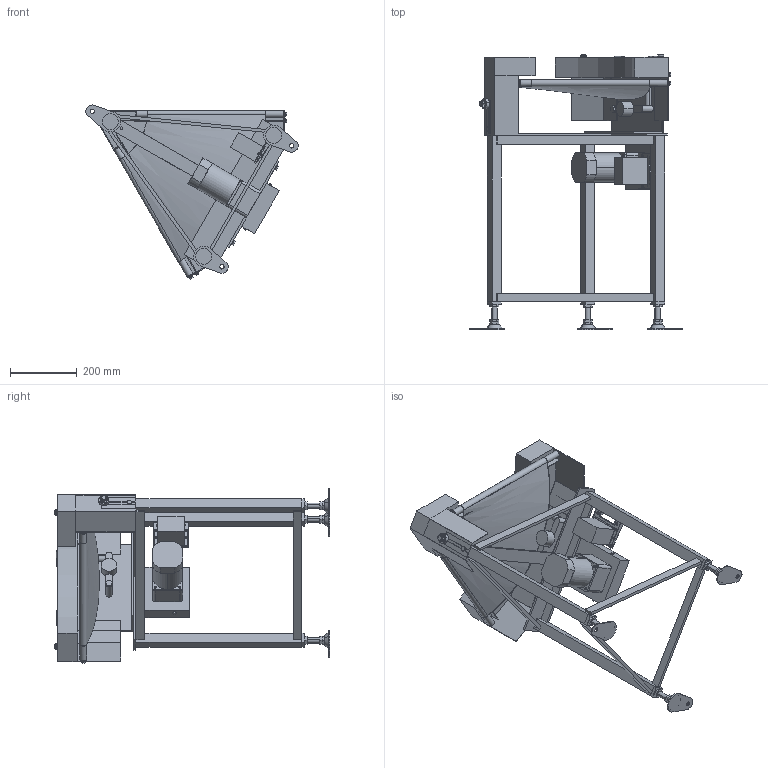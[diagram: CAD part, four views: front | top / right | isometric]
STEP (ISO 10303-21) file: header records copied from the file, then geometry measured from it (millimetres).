
FILE_DESCRIPTION( (''), '2;1');
FILE_NAME ('MMBC3-UD-309-300-60°-L-K-120.stp','2025-02-17T13:49:35',(''),(''),'spGate 20.6.2 (****-****-****-****)','','');
FILE_SCHEMA (('AUTOMOTIVE_DESIGN'));
Length unit declared in the file: millimetre
Products named in the file (39): NewModel; TEMP_X_T-prt0; TEMP_X_T-prt1; TEMP_X_T-prt2; TEMP_X_T-prt3; TEMP_X_T-prt4; TEMP_X_T-prt5; TEMP_X_T-prt6; TEMP_X_T-prt7; TEMP_X_T-prt8; TEMP_X_T-prt9; TEMP_X_T-prt10; TEMP_X_T-prt11; TEMP_X_T-prt12; TEMP_X_T-prt13; TEMP_X_T-prt14; TEMP_X_T-prt15; TEMP_X_T-prt16; TEMP_X_T-prt17; TEMP_X_T-prt18; TEMP_X_T-prt19; TEMP_X_T-prt20; TEMP_X_T-prt21; TEMP_X_T-prt22; TEMP_X_T-prt23; TEMP_X_T-prt24; TEMP_X_T-prt25; TEMP_X_T-prt26; TEMP_X_T-prt27; TEMP_X_T-prt28; TEMP_X_T-prt29; TEMP_X_T-prt30; TEMP_X_T-prt31; TEMP_X_T-prt32; TEMP_X_T-prt33; TEMP_X_T-prt34; TEMP_X_T-prt35; TEMP_X_T-prt36; TEMP_X_T-prt37
Assembly tree (38 placements, depth 2):
  NewModel
    TEMP_X_T-prt0
    TEMP_X_T-prt1
    TEMP_X_T-prt2
    TEMP_X_T-prt3
    TEMP_X_T-prt4
    TEMP_X_T-prt5
    TEMP_X_T-prt6
    TEMP_X_T-prt7
    TEMP_X_T-prt8
    TEMP_X_T-prt9
    TEMP_X_T-prt10
    TEMP_X_T-prt11
    TEMP_X_T-prt12
    TEMP_X_T-prt13
    TEMP_X_T-prt14
    TEMP_X_T-prt15
    TEMP_X_T-prt16
    TEMP_X_T-prt17
    TEMP_X_T-prt18
    TEMP_X_T-prt19
    TEMP_X_T-prt20
    TEMP_X_T-prt21
    TEMP_X_T-prt22
    TEMP_X_T-prt23
    TEMP_X_T-prt24
    TEMP_X_T-prt25
    TEMP_X_T-prt26
    TEMP_X_T-prt27
    TEMP_X_T-prt28
    TEMP_X_T-prt29
    TEMP_X_T-prt30
    TEMP_X_T-prt31
    TEMP_X_T-prt32
    TEMP_X_T-prt33
    TEMP_X_T-prt34
    TEMP_X_T-prt35
    TEMP_X_T-prt36
    TEMP_X_T-prt37
Bounding box: 637.93 x 827.92 x 523.26 mm (x, y, z)
Volume: 12415446.5 mm3; surface area: 2318923.1 mm2
Topology: 38 solids, 38 shells, 1067 faces, 2536 edges, 1636 vertices
Faces by surface type: plane 719, cylinder 267, bspline 77, sphere 4
Entity records: 56062 total; most frequent: CARTESIAN_POINT 9740, ORIENTED_EDGE 5064, DIRECTION 4995, COLOUR_RGB 3637, PRESENTATION_STYLE_ASSIGNMENT 3637, STYLED_ITEM 3637, EDGE_CURVE 2532, DRAUGHTING_PRE_DEFINED_CURVE_FONT 2532
